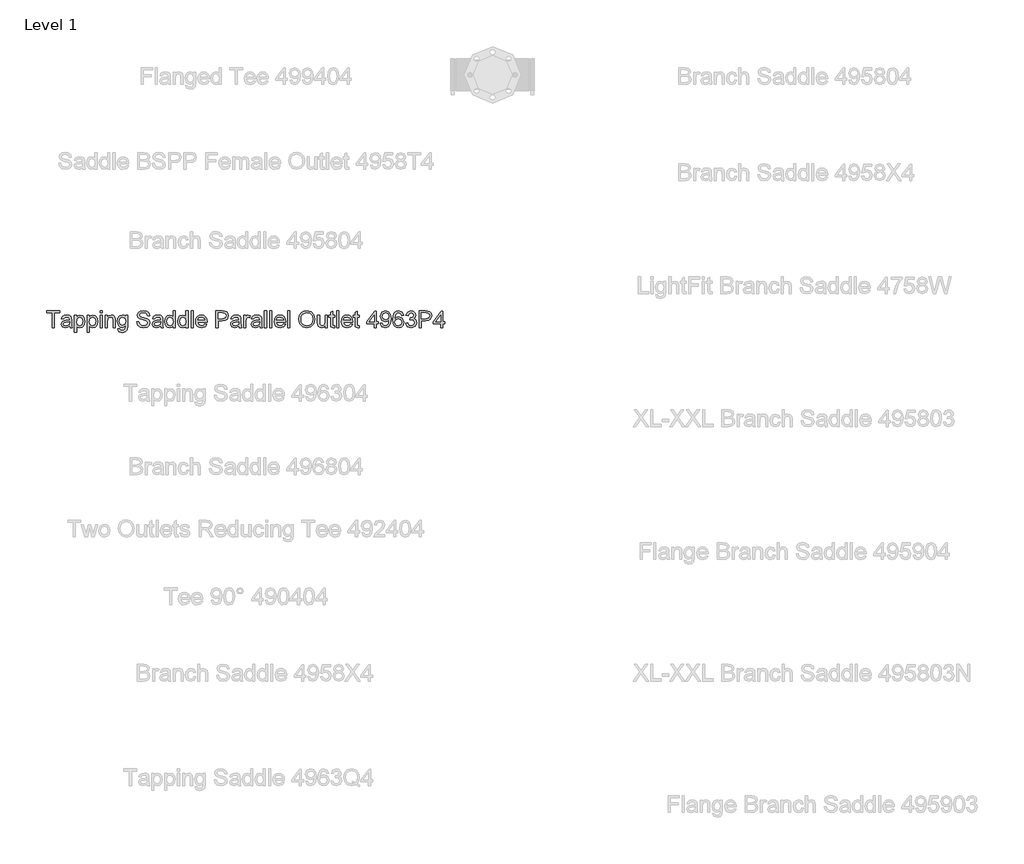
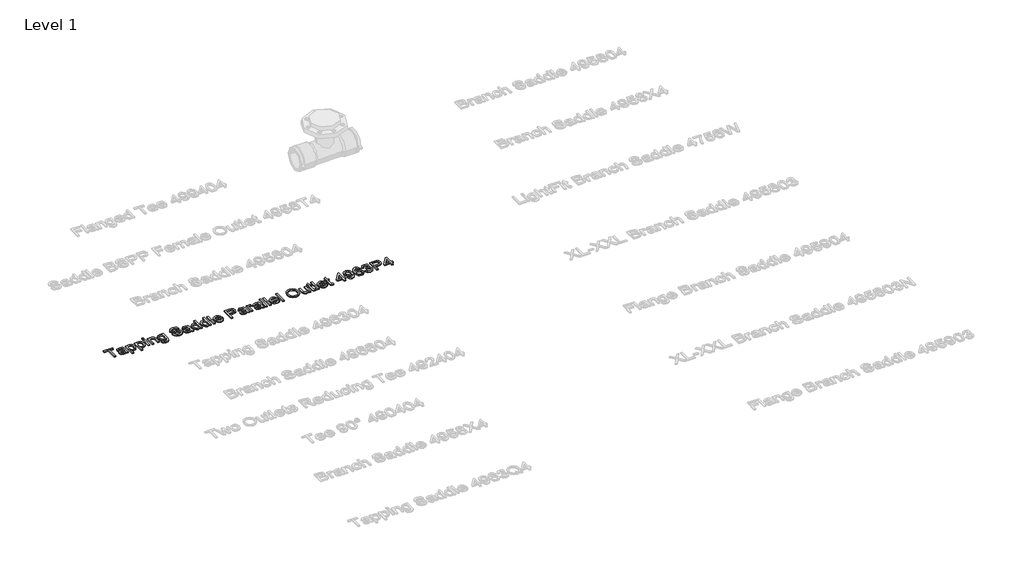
# One storey, part 10 of 41: 1 proxy.
"""IFC4 building model written with IfcOpenShell, lengths in millimetres."""

from ifc_helpers import new_model, si_unit, origin, origin_with_axes, place, context, project, spatial, polyline, outline, extrude, element, save

model = new_model("IFC4")

# Units and contexts
model_context = context("Model", 3, world=origin())
ifc_project = project(units=[si_unit("LENGTHUNIT", "METRE", prefix="MILLI")], contexts=[model_context])

# Site, building, storey
site = spatial("IfcSite", under=ifc_project)
building = spatial("IfcBuilding", under=site)
storey = spatial("IfcBuildingStorey", under=building, Name="Level 1", Elevation=0.0)

# Proxy
placement = place(None, origin())
element("IfcBuildingElementProxy", 1, Name="100 mm Arial", ObjectType="100 mm Arial", at=placement, inside=storey, context=model_context, shape_type="SweptSolid", body=[
    extrude(outline(polyline([(6373.9808456, 4077.5779735), (6373.9808456, 4129.2702812), (6354.5962303, 4129.2702812), (6354.5962303, 4136.6548966), (6400.7500764, 4136.6548966), (6400.7500764, 4129.2702812), (6381.365461, 4129.2702812), (6381.365461, 4077.5779735), (6373.9808456, 4077.5779735)])), origin_with_axes(), (0.0, 0.0, 1.0), 5.0),
    extrude(outline(polyline([(6435.8269995, 4083.1164351), (6428.6659418, 4078.1116274), (6420.7548841, 4076.6548966), (6410.0313264, 4080.1597043), (6406.288538, 4089.1164351), (6407.7019995, 4094.9577812), (6411.4159418, 4099.1981658), (6416.5866149, 4101.6212428), (6422.976038, 4102.7318197), (6435.7837303, 4105.2702812), (6435.8269995, 4106.914512), (6433.7933456, 4112.3664351), (6425.6298841, 4114.5010505), (6418.1587303, 4113.0803774), (6414.5962303, 4108.039512), (6407.2116149, 4108.9625889), (6410.4063264, 4116.1741274), (6416.8390187, 4120.4000889), (6426.5818072, 4121.8856658), (6435.5313264, 4120.5731658), (6440.5866149, 4117.2774928), (6442.851038, 4112.2654735), (6443.2116149, 4105.8039351), (6443.2116149, 4096.6164351), (6443.5866149, 4083.7871082), (6445.0577687, 4077.5779735), (6437.6731533, 4077.5779735), (6435.8269995, 4083.1164351)]), holes=[polyline([(6435.8269995, 4097.8856658), (6423.913538, 4095.6212428), (6417.5601726, 4094.4241274), (6414.6827687, 4092.477012), (6413.6731533, 4089.6356658), (6415.8726726, 4085.6404735), (6422.3269995, 4084.039512), (6429.7981533, 4085.8063389), (6434.615461, 4090.0827812), (6435.7837303, 4095.7943197), (6435.8269995, 4097.8856658)])]), origin_with_axes(), (0.0, 0.0, 1.0), 5.0),
    extrude(outline(polyline([(6453.365461, 4060.9625889), (6453.365461, 4120.9625889), (6460.7500764, 4120.9625889), (6460.7500764, 4113.7222043), (6465.8558456, 4119.8448005), (6472.7500764, 4121.8856658), (6482.1106533, 4119.0298966), (6488.226038, 4110.9818197), (6490.288538, 4099.602012), (6487.959211, 4087.6380697), (6481.194788, 4079.4890312), (6471.8558456, 4076.6548966), (6465.4303649, 4078.5515312), (6460.7500764, 4083.3472043), (6460.7500764, 4060.9625889), (6453.365461, 4060.9625889)]), holes=[polyline([(6460.7500764, 4098.9241274), (6463.944788, 4087.6741274), (6471.6971918, 4084.039512), (6479.6082495, 4087.8039351), (6482.9039226, 4099.4722043), (6479.6875764, 4110.7510505), (6472.0000764, 4114.5010505), (6464.1611341, 4110.5130697), (6460.7500764, 4098.9241274)])]), origin_with_axes(), (0.0, 0.0, 1.0), 5.0),
    extrude(outline(polyline([(6498.5962303, 4060.9625889), (6498.5962303, 4120.9625889), (6505.9808456, 4120.9625889), (6505.9808456, 4113.7222043), (6511.0866149, 4119.8448005), (6517.9808456, 4121.8856658), (6527.3414226, 4119.0298966), (6533.4568072, 4110.9818197), (6535.5193072, 4099.602012), (6533.1899803, 4087.6380697), (6526.4255572, 4079.4890312), (6517.0866149, 4076.6548966), (6510.6611341, 4078.5515312), (6505.9808456, 4083.3472043), (6505.9808456, 4060.9625889), (6498.5962303, 4060.9625889)]), holes=[polyline([(6505.9808456, 4098.9241274), (6509.1755572, 4087.6741274), (6516.927961, 4084.039512), (6524.8390187, 4087.8039351), (6528.1346918, 4099.4722043), (6524.9183456, 4110.7510505), (6517.2308456, 4114.5010505), (6509.3919033, 4110.5130697), (6505.9808456, 4098.9241274)])]), origin_with_axes(), (0.0, 0.0, 1.0), 5.0),
    extrude(outline(polyline([(6543.8269995, 4129.2702812), (6543.8269995, 4136.6548966), (6551.2116149, 4136.6548966), (6551.2116149, 4129.2702812), (6543.8269995, 4129.2702812)])), origin_with_axes(), (0.0, 0.0, 1.0), 5.0),
    extrude(outline(polyline([(6543.8269995, 4077.5779735), (6543.8269995, 4120.9625889), (6551.2116149, 4120.9625889), (6551.2116149, 4077.5779735), (6543.8269995, 4077.5779735)])), origin_with_axes(), (0.0, 0.0, 1.0), 5.0),
    extrude(outline(polyline([(6562.288538, 4077.5779735), (6562.288538, 4120.9625889), (6569.6731533, 4120.9625889), (6569.6731533, 4114.9048966), (6575.319788, 4120.1404735), (6583.0289226, 4121.8856658), (6590.0024803, 4120.4794158), (6594.7620956, 4116.7871082), (6596.976038, 4111.3568197), (6597.365461, 4104.2173966), (6597.365461, 4077.5779735), (6589.9808456, 4077.5779735), (6589.9808456, 4103.2222043), (6589.1298841, 4109.7558582), (6586.1226726, 4113.2101851), (6581.052961, 4114.5010505), (6573.0409418, 4111.602012), (6569.6731533, 4100.5972043), (6569.6731533, 4077.5779735), (6562.288538, 4077.5779735)])), origin_with_axes(), (0.0, 0.0, 1.0), 5.0),
    extrude(outline(polyline([(6605.6731533, 4073.8856658), (6613.0577687, 4072.9625889), (6615.4519995, 4069.0683582), (6622.6202687, 4067.4241274), (6630.177961, 4069.2847043), (6633.7837303, 4074.5058582), (6634.288538, 4083.1164351), (6622.7500764, 4077.5779735), (6615.1364947, 4079.1897524), (6609.459211, 4084.0250889), (6604.7500764, 4099.4866274), (6606.8630572, 4110.9313389), (6612.9784418, 4119.0298966), (6622.3894995, 4121.8856658), (6628.9772399, 4120.2702812), (6634.288538, 4115.4241274), (6634.288538, 4120.9625889), (6641.6731533, 4120.9625889), (6641.6731533, 4083.5058582), (6639.6539226, 4069.1621082), (6633.257288, 4062.4914351), (6622.476038, 4060.039512), (6610.194788, 4063.4938389), (6605.6731533, 4073.8856658)]), holes=[polyline([(6612.1346918, 4099.9914351), (6615.2861341, 4088.5611466), (6623.1971918, 4084.9625889), (6631.0938264, 4088.539512), (6634.288538, 4099.7750889), (6631.0000764, 4110.7871082), (6623.0818072, 4114.5010505), (6615.3294033, 4110.8448005), (6612.1346918, 4099.9914351)])]), origin_with_axes(), (0.0, 0.0, 1.0), 5.0),
    extrude(outline(polyline([(6673.9808456, 4097.8856658), (6681.365461, 4097.8856658), (6683.7452687, 4090.4938389), (6689.5577687, 4085.820762), (6698.413538, 4084.039512), (6706.1298841, 4085.3880697), (6711.1130572, 4089.0948005), (6712.7500764, 4094.0491274), (6711.5241149, 4098.6573005), (6706.5048841, 4102.0106658), (6695.7524803, 4104.8303774), (6684.177961, 4108.4722043), (6677.896711, 4113.9673966), (6675.8269995, 4121.3087428), (6678.3870956, 4129.6669158), (6685.865461, 4135.5659543), (6696.8125764, 4137.5779735), (6708.4952687, 4135.4722043), (6716.2837303, 4129.2847043), (6719.2116149, 4120.039512), (6711.8269995, 4120.039512), (6707.6443072, 4127.6260505), (6697.101038, 4130.1933582), (6686.5289226, 4127.6548966), (6683.2116149, 4121.5250889), (6685.5625764, 4116.4048966), (6697.6202687, 4112.2798966), (6710.6875764, 4108.5731658), (6717.834211, 4102.5875889), (6720.1346918, 4094.2366274), (6717.4880572, 4085.4024928), (6709.8726726, 4078.9553774), (6698.7019995, 4076.6548966), (6685.5120956, 4079.1356658), (6677.1683456, 4086.6068197), (6673.9808456, 4097.8856658)])), origin_with_axes(), (0.0, 0.0, 1.0), 5.0),
    extrude(outline(polyline([(6757.9808456, 4083.1164351), (6750.819788, 4078.1116274), (6742.9087303, 4076.6548966), (6732.1851726, 4080.1597043), (6728.4423841, 4089.1164351), (6729.8558456, 4094.9577812), (6733.569788, 4099.1981658), (6738.740461, 4101.6212428), (6745.1298841, 4102.7318197), (6757.9375764, 4105.2702812), (6757.9808456, 4106.914512), (6755.9471918, 4112.3664351), (6747.7837303, 4114.5010505), (6740.3125764, 4113.0803774), (6736.7500764, 4108.039512), (6729.365461, 4108.9625889), (6732.5601726, 4116.1741274), (6738.9928649, 4120.4000889), (6748.7356533, 4121.8856658), (6757.6851726, 4120.5731658), (6762.740461, 4117.2774928), (6765.0048841, 4112.2654735), (6765.365461, 4105.8039351), (6765.365461, 4096.6164351), (6765.740461, 4083.7871082), (6767.2116149, 4077.5779735), (6759.8269995, 4077.5779735), (6757.9808456, 4083.1164351)]), holes=[polyline([(6757.9808456, 4097.8856658), (6746.0673841, 4095.6212428), (6739.7140187, 4094.4241274), (6736.8366149, 4092.477012), (6735.8269995, 4089.6356658), (6738.0265187, 4085.6404735), (6744.4808456, 4084.039512), (6751.9519995, 4085.8063389), (6756.7693072, 4090.0827812), (6757.9375764, 4095.7943197), (6757.9808456, 4097.8856658)])]), origin_with_axes(), (0.0, 0.0, 1.0), 5.0),
    extrude(outline(polyline([(6802.288538, 4077.5779735), (6802.288538, 4084.5443197), (6797.4027206, 4078.6272524), (6790.6491149, 4076.6548966), (6781.5048841, 4079.5106658), (6775.0433456, 4087.4794158), (6772.7500764, 4099.227012), (6774.8630572, 4110.9818197), (6781.194788, 4119.0731658), (6790.6202687, 4121.8856658), (6797.427961, 4119.8736466), (6802.288538, 4114.6452812), (6802.288538, 4136.6548966), (6809.6731533, 4136.6548966), (6809.6731533, 4077.5779735), (6802.288538, 4077.5779735)]), holes=[polyline([(6780.1346918, 4099.2558582), (6783.4664226, 4087.8255697), (6791.3269995, 4084.039512), (6799.0938264, 4087.6524928), (6802.288538, 4098.6933582), (6799.0361341, 4110.6789351), (6791.0241149, 4114.5010505), (6783.2500764, 4110.8303774), (6780.1346918, 4099.2558582)])]), origin_with_axes(), (0.0, 0.0, 1.0), 5.0),
    extrude(outline(polyline([(6847.5193072, 4077.5779735), (6847.5193072, 4084.5443197), (6842.6334899, 4078.6272524), (6835.8798841, 4076.6548966), (6826.7356533, 4079.5106658), (6820.2741149, 4087.4794158), (6817.9808456, 4099.227012), (6820.0938264, 4110.9818197), (6826.4255572, 4119.0731658), (6835.851038, 4121.8856658), (6842.6587303, 4119.8736466), (6847.5193072, 4114.6452812), (6847.5193072, 4136.6548966), (6854.9039226, 4136.6548966), (6854.9039226, 4077.5779735), (6847.5193072, 4077.5779735)]), holes=[polyline([(6825.365461, 4099.2558582), (6828.6971918, 4087.8255697), (6836.5577687, 4084.039512), (6844.3245956, 4087.6524928), (6847.5193072, 4098.6933582), (6844.2669033, 4110.6789351), (6836.2548841, 4114.5010505), (6828.4808456, 4110.8303774), (6825.365461, 4099.2558582)])]), origin_with_axes(), (0.0, 0.0, 1.0), 5.0),
    extrude(outline(polyline([(6865.9808456, 4077.5779735), (6865.9808456, 4136.6548966), (6873.365461, 4136.6548966), (6873.365461, 4077.5779735), (6865.9808456, 4077.5779735)])), origin_with_axes(), (0.0, 0.0, 1.0), 5.0),
    extrude(outline(polyline([(6914.8173841, 4090.5010505), (6922.0577687, 4089.5779735), (6915.2861341, 4080.0443197), (6902.6731533, 4076.6548966), (6894.0084899, 4078.117036), (6887.3414226, 4082.5034543), (6883.0902206, 4089.5292957), (6881.6731533, 4098.9097043), (6883.1046437, 4108.6056178), (6887.3991149, 4115.8568197), (6893.976038, 4120.3784543), (6902.2548841, 4121.8856658), (6910.2759178, 4120.3820601), (6916.6851726, 4115.8712428), (6920.8876966, 4108.6344639), (6922.288538, 4098.9529735), (6922.2452687, 4096.9625889), (6889.0577687, 4096.9625889), (6893.3053649, 4087.3712428), (6902.8173841, 4084.039512), (6910.0577687, 4085.5827812), (6914.8173841, 4090.5010505)]), holes=[polyline([(6889.0577687, 4104.3472043), (6914.9039226, 4104.3472043), (6911.9471918, 4111.039512), (6902.226038, 4114.5010505), (6893.132288, 4111.7390312), (6889.0577687, 4104.3472043)])]), origin_with_axes(), (0.0, 0.0, 1.0), 5.0),
    extrude(outline(polyline([(6953.6731533, 4077.5779735), (6953.6731533, 4136.6548966), (6975.5673841, 4136.6548966), (6984.3943072, 4136.0923966), (6991.569788, 4133.3303774), (6996.2212303, 4127.6188389), (6997.9808456, 4119.5635505), (6993.2284418, 4106.7991274), (6986.5631774, 4102.883262), (6976.0721918, 4101.5779735), (6961.0577687, 4101.5779735), (6961.0577687, 4077.5779735), (6953.6731533, 4077.5779735)]), holes=[polyline([(6961.0577687, 4108.9625889), (6976.5048841, 4108.9625889), (6987.3798841, 4111.6741274), (6990.5962303, 4119.3039351), (6988.6995956, 4125.4193197), (6983.7164226, 4128.7654735), (6976.3318072, 4129.2702812), (6961.0577687, 4129.2702812), (6961.0577687, 4108.9625889)])]), origin_with_axes(), (0.0, 0.0, 1.0), 5.0),
    extrude(outline(polyline([(7034.9039226, 4083.1164351), (7027.7428649, 4078.1116274), (7019.8318072, 4076.6548966), (7009.1082495, 4080.1597043), (7005.365461, 4089.1164351), (7006.7789226, 4094.9577812), (7010.4928649, 4099.1981658), (7015.663538, 4101.6212428), (7022.052961, 4102.7318197), (7034.8606533, 4105.2702812), (7034.9039226, 4106.914512), (7032.8702687, 4112.3664351), (7024.7068072, 4114.5010505), (7017.2356533, 4113.0803774), (7013.6731533, 4108.039512), (7006.288538, 4108.9625889), (7009.4832495, 4116.1741274), (7015.9159418, 4120.4000889), (7025.6587303, 4121.8856658), (7034.6082495, 4120.5731658), (7039.663538, 4117.2774928), (7041.927961, 4112.2654735), (7042.288538, 4105.8039351), (7042.288538, 4096.6164351), (7042.663538, 4083.7871082), (7044.1346918, 4077.5779735), (7036.7500764, 4077.5779735), (7034.9039226, 4083.1164351)]), holes=[polyline([(7034.9039226, 4097.8856658), (7022.990461, 4095.6212428), (7016.6370956, 4094.4241274), (7013.7596918, 4092.477012), (7012.7500764, 4089.6356658), (7014.9495956, 4085.6404735), (7021.4039226, 4084.039512), (7028.8750764, 4085.8063389), (7033.6923841, 4090.0827812), (7034.8606533, 4095.7943197), (7034.9039226, 4097.8856658)])]), origin_with_axes(), (0.0, 0.0, 1.0), 5.0),
    extrude(outline(polyline([(7052.4423841, 4077.5779735), (7052.4423841, 4120.9625889), (7058.9039226, 4120.9625889), (7058.9039226, 4114.5443197), (7063.490461, 4120.4577812), (7068.1058456, 4121.8856658), (7075.5193072, 4119.6068197), (7073.052961, 4112.9866274), (7067.8606533, 4114.5010505), (7063.6851726, 4113.0443197), (7061.0241149, 4109.0058582), (7059.8269995, 4100.3808582), (7059.8269995, 4077.5779735), (7052.4423841, 4077.5779735)])), origin_with_axes(), (0.0, 0.0, 1.0), 5.0),
    extrude(outline(polyline([(7107.8269995, 4083.1164351), (7100.6659418, 4078.1116274), (7092.7548841, 4076.6548966), (7082.0313264, 4080.1597043), (7078.288538, 4089.1164351), (7079.7019995, 4094.9577812), (7083.4159418, 4099.1981658), (7088.5866149, 4101.6212428), (7094.976038, 4102.7318197), (7107.7837303, 4105.2702812), (7107.8269995, 4106.914512), (7105.7933456, 4112.3664351), (7097.6298841, 4114.5010505), (7090.1587303, 4113.0803774), (7086.5962303, 4108.039512), (7079.2116149, 4108.9625889), (7082.4063264, 4116.1741274), (7088.8390187, 4120.4000889), (7098.5818072, 4121.8856658), (7107.5313264, 4120.5731658), (7112.5866149, 4117.2774928), (7114.851038, 4112.2654735), (7115.2116149, 4105.8039351), (7115.2116149, 4096.6164351), (7115.5866149, 4083.7871082), (7117.0577687, 4077.5779735), (7109.6731533, 4077.5779735), (7107.8269995, 4083.1164351)]), holes=[polyline([(7107.8269995, 4097.8856658), (7095.913538, 4095.6212428), (7089.5601726, 4094.4241274), (7086.6827687, 4092.477012), (7085.6731533, 4089.6356658), (7087.8726726, 4085.6404735), (7094.3269995, 4084.039512), (7101.7981533, 4085.8063389), (7106.615461, 4090.0827812), (7107.7837303, 4095.7943197), (7107.8269995, 4097.8856658)])]), origin_with_axes(), (0.0, 0.0, 1.0), 5.0),
    extrude(outline(polyline([(7125.365461, 4077.5779735), (7125.365461, 4136.6548966), (7132.7500764, 4136.6548966), (7132.7500764, 4077.5779735), (7125.365461, 4077.5779735)])), origin_with_axes(), (0.0, 0.0, 1.0), 5.0),
    extrude(outline(polyline([(7143.8269995, 4077.5779735), (7143.8269995, 4136.6548966), (7151.2116149, 4136.6548966), (7151.2116149, 4077.5779735), (7143.8269995, 4077.5779735)])), origin_with_axes(), (0.0, 0.0, 1.0), 5.0),
    extrude(outline(polyline([(7192.663538, 4090.5010505), (7199.9039226, 4089.5779735), (7193.132288, 4080.0443197), (7180.5193072, 4076.6548966), (7171.8546437, 4078.117036), (7165.1875764, 4082.5034543), (7160.9363745, 4089.5292957), (7159.5193072, 4098.9097043), (7160.9507976, 4108.6056178), (7165.2452687, 4115.8568197), (7171.8221918, 4120.3784543), (7180.101038, 4121.8856658), (7188.1220716, 4120.3820601), (7194.5313264, 4115.8712428), (7198.7338505, 4108.6344639), (7200.1346918, 4098.9529735), (7200.0914226, 4096.9625889), (7166.9039226, 4096.9625889), (7171.1515187, 4087.3712428), (7180.663538, 4084.039512), (7187.9039226, 4085.5827812), (7192.663538, 4090.5010505)]), holes=[polyline([(7166.9039226, 4104.3472043), (7192.7500764, 4104.3472043), (7189.7933456, 4111.039512), (7180.0721918, 4114.5010505), (7170.9784418, 4111.7390312), (7166.9039226, 4104.3472043)])]), origin_with_axes(), (0.0, 0.0, 1.0), 5.0),
    extrude(outline(polyline([(7207.5193072, 4077.5779735), (7207.5193072, 4136.6548966), (7214.9039226, 4136.6548966), (7214.9039226, 4077.5779735), (7207.5193072, 4077.5779735)])), origin_with_axes(), (0.0, 0.0, 1.0), 5.0),
    extrude(outline(polyline([(7247.2116149, 4106.3375889), (7249.1803649, 4119.4012908), (7255.0866149, 4129.2847043), (7264.1046437, 4135.5046562), (7275.4087303, 4137.5779735), (7290.1058456, 4133.6837428), (7300.0866149, 4122.8231658), (7303.5193072, 4107.0154735), (7299.9063264, 4090.9914351), (7289.6659418, 4080.289512), (7275.365461, 4076.6548966), (7260.5096918, 4080.6717235), (7250.5866149, 4091.633262), (7247.2116149, 4106.3375889)]), holes=[polyline([(7254.5962303, 4106.2654735), (7256.0727928, 4097.023887), (7260.5024803, 4089.9818197), (7267.1605331, 4085.5250889), (7275.3221918, 4084.039512), (7283.6028408, 4085.539512), (7290.271711, 4090.039512), (7294.6689466, 4097.2979255), (7296.1346918, 4107.0731658), (7293.6250764, 4119.2606658), (7286.2909418, 4127.3303774), (7275.4519995, 4130.1933582), (7260.7548841, 4124.6765312), (7256.1358937, 4117.3153533), (7254.5962303, 4106.2654735)])]), origin_with_axes(), (0.0, 0.0, 1.0), 5.0),
    extrude(outline(polyline([(7340.4423841, 4077.5779735), (7340.4423841, 4085.0347043), (7334.6587303, 4078.7498485), (7327.115461, 4076.6548966), (7320.1707495, 4078.1260505), (7315.382288, 4081.8183582), (7313.1827687, 4087.2558582), (7312.7500764, 4094.1212428), (7312.7500764, 4120.9625889), (7320.1346918, 4120.9625889), (7320.1346918, 4097.5972043), (7320.5818072, 4090.0683582), (7323.5024803, 4085.6476851), (7329.0048841, 4084.039512), (7335.1707495, 4085.6837428), (7339.2452687, 4090.1621082), (7340.4423841, 4098.3904735), (7340.4423841, 4120.9625889), (7347.8269995, 4120.9625889), (7347.8269995, 4077.5779735), (7340.4423841, 4077.5779735)])), origin_with_axes(), (0.0, 0.0, 1.0), 5.0),
    extrude(outline(polyline([(7373.6731533, 4083.7366274), (7374.5962303, 4077.3616274), (7369.0721918, 4076.6548966), (7362.8846918, 4077.8808582), (7359.7981533, 4081.0972043), (7358.9039226, 4089.477012), (7358.9039226, 4113.5779735), (7353.365461, 4113.5779735), (7353.365461, 4120.9625889), (7358.9039226, 4120.9625889), (7358.9039226, 4131.5058582), (7366.288538, 4135.8472043), (7366.288538, 4120.9625889), (7373.6731533, 4120.9625889), (7373.6731533, 4113.5779735), (7366.288538, 4113.5779735), (7366.288538, 4089.6933582), (7366.677961, 4085.8856658), (7367.9399803, 4084.5371082), (7370.4568072, 4084.039512), (7373.6731533, 4083.7366274)])), origin_with_axes(), (0.0, 0.0, 1.0), 5.0),
    extrude(outline(polyline([(7381.0577687, 4077.5779735), (7381.0577687, 4136.6548966), (7388.4423841, 4136.6548966), (7388.4423841, 4077.5779735), (7381.0577687, 4077.5779735)])), origin_with_axes(), (0.0, 0.0, 1.0), 5.0),
    extrude(outline(polyline([(7429.8943072, 4090.5010505), (7437.1346918, 4089.5779735), (7430.3630572, 4080.0443197), (7417.7500764, 4076.6548966), (7409.085413, 4078.117036), (7402.4183456, 4082.5034543), (7398.1671437, 4089.5292957), (7396.7500764, 4098.9097043), (7398.1815668, 4108.6056178), (7402.476038, 4115.8568197), (7409.052961, 4120.3784543), (7417.3318072, 4121.8856658), (7425.3528408, 4120.3820601), (7431.7620956, 4115.8712428), (7435.9646197, 4108.6344639), (7437.365461, 4098.9529735), (7437.3221918, 4096.9625889), (7404.1346918, 4096.9625889), (7408.382288, 4087.3712428), (7417.8943072, 4084.039512), (7425.1346918, 4085.5827812), (7429.8943072, 4090.5010505)]), holes=[polyline([(7404.1346918, 4104.3472043), (7429.9808456, 4104.3472043), (7427.0241149, 4111.039512), (7417.302961, 4114.5010505), (7408.209211, 4111.7390312), (7404.1346918, 4104.3472043)])]), origin_with_axes(), (0.0, 0.0, 1.0), 5.0),
    extrude(outline(polyline([(7460.4423841, 4083.7366274), (7461.365461, 4077.3616274), (7455.8414226, 4076.6548966), (7449.6539226, 4077.8808582), (7446.5673841, 4081.0972043), (7445.6731533, 4089.477012), (7445.6731533, 4113.5779735), (7440.1346918, 4113.5779735), (7440.1346918, 4120.9625889), (7445.6731533, 4120.9625889), (7445.6731533, 4131.5058582), (7453.0577687, 4135.8472043), (7453.0577687, 4120.9625889), (7460.4423841, 4120.9625889), (7460.4423841, 4113.5779735), (7453.0577687, 4113.5779735), (7453.0577687, 4089.6933582), (7453.4471918, 4085.8856658), (7454.709211, 4084.5371082), (7457.226038, 4084.039512), (7460.4423841, 4083.7366274)])), origin_with_axes(), (0.0, 0.0, 1.0), 5.0),
    extrude(outline(polyline([(7513.0577687, 4077.5779735), (7513.0577687, 4091.4241274), (7486.288538, 4091.4241274), (7486.288538, 4098.8087428), (7514.9039226, 4135.7318197), (7520.4423841, 4135.7318197), (7520.4423841, 4098.8087428), (7527.8269995, 4098.8087428), (7527.8269995, 4091.4241274), (7520.4423841, 4091.4241274), (7520.4423841, 4077.5779735), (7513.0577687, 4077.5779735)]), holes=[polyline([(7513.0577687, 4098.8087428), (7513.0577687, 4121.6260505), (7495.3750764, 4098.8087428), (7513.0577687, 4098.8087428)])]), origin_with_axes(), (0.0, 0.0, 1.0), 5.0),
    extrude(outline(polyline([(7535.2116149, 4092.3472043), (7542.5962303, 4093.2702812), (7545.913538, 4086.2246082), (7552.2019995, 4084.039512), (7558.1803649, 4085.445762), (7562.2332495, 4089.2029735), (7564.6491149, 4095.6212428), (7565.7164226, 4104.1885505), (7559.7669033, 4100.0347043), (7551.6683456, 4097.8856658), (7539.3294033, 4103.1356658), (7534.288538, 4116.9673966), (7539.5745956, 4131.2462428), (7552.8221918, 4136.6548966), (7563.3438264, 4133.5683582), (7570.584211, 4124.7702812), (7573.0577687, 4108.2414351), (7570.5914226, 4090.3063389), (7563.257288, 4080.1452812), (7551.8558456, 4076.6548966), (7540.5048841, 4080.7726851), (7535.2116149, 4092.3472043)]), holes=[polyline([(7565.6731533, 4117.1404735), (7562.4856533, 4125.9962428), (7554.0193072, 4129.2702812), (7545.1346918, 4125.7438389), (7541.6731533, 4116.6068197), (7544.9471918, 4108.4217235), (7553.8173841, 4105.2702812), (7562.334211, 4108.4217235), (7565.6731533, 4117.1404735)])]), origin_with_axes(), (0.0, 0.0, 1.0), 5.0),
    extrude(outline(polyline([(7617.365461, 4120.9625889), (7609.9808456, 4120.039512), (7607.1827687, 4126.1981658), (7599.7837303, 4129.2702812), (7593.1202687, 4127.4818197), (7588.0794033, 4120.7678774), (7585.9808456, 4107.6068197), (7592.4928649, 4113.4986466), (7600.5625764, 4115.4241274), (7613.1106533, 4110.1597043), (7618.288538, 4096.5587428), (7615.851038, 4086.3688389), (7609.1443072, 4079.1573005), (7599.4664226, 4076.6548966), (7591.0884178, 4078.3135505), (7584.4159418, 4083.289512), (7580.0511581, 4092.0731658), (7578.5962303, 4105.1548966), (7580.2116149, 4119.8628293), (7585.0577687, 4129.9193197), (7591.6743553, 4134.9710024), (7600.2452687, 4136.6548966), (7611.913538, 4132.4866274), (7617.365461, 4120.9625889)]), holes=[polyline([(7585.9808456, 4096.6741274), (7587.6899803, 4090.2774928), (7592.2332495, 4085.633262), (7598.8894995, 4084.039512), (7607.5938264, 4087.3423966), (7610.9039226, 4096.3135505), (7607.6370956, 4104.9024928), (7598.5866149, 4108.039512), (7589.6515187, 4104.9024928), (7585.9808456, 4096.6741274)])]), origin_with_axes(), (0.0, 0.0, 1.0), 5.0),
    extrude(outline(polyline([(7624.7500764, 4093.2702812), (7632.1346918, 4094.1933582), (7636.209211, 4086.4193197), (7643.8318072, 4084.039512), (7652.802961, 4087.3135505), (7656.1346918, 4095.4193197), (7652.8318072, 4103.0563389), (7644.4375764, 4106.0779735), (7639.2596918, 4105.2702812), (7640.0818072, 4112.6548966), (7649.6443072, 4114.6885505), (7653.365461, 4121.2077812), (7650.6683456, 4126.9842235), (7643.7164226, 4129.2702812), (7636.677961, 4126.9625889), (7633.0577687, 4120.039512), (7625.6731533, 4120.9625889), (7631.7164226, 4132.5443197), (7643.4568072, 4136.6548966), (7652.3630572, 4134.6284543), (7658.5938264, 4129.0899928), (7660.7500764, 4121.6404735), (7658.7019995, 4114.8327812), (7652.6443072, 4109.9433582), (7660.6923841, 4104.8952812), (7663.5193072, 4095.289512), (7657.865461, 4082.0779735), (7643.5721918, 4076.6548966), (7630.6202687, 4081.2847043), (7624.7500764, 4093.2702812)])), origin_with_axes(), (0.0, 0.0, 1.0), 5.0),
    extrude(outline(polyline([(7672.7500764, 4077.5779735), (7672.7500764, 4136.6548966), (7694.6443072, 4136.6548966), (7703.4712303, 4136.0923966), (7710.646711, 4133.3303774), (7715.2981533, 4127.6188389), (7717.0577687, 4119.5635505), (7712.3053649, 4106.7991274), (7705.6401005, 4102.883262), (7695.1491149, 4101.5779735), (7680.1346918, 4101.5779735), (7680.1346918, 4077.5779735), (7672.7500764, 4077.5779735)]), holes=[polyline([(7680.1346918, 4108.9625889), (7695.5818072, 4108.9625889), (7706.4568072, 4111.6741274), (7709.6731533, 4119.3039351), (7707.7765187, 4125.4193197), (7702.7933456, 4128.7654735), (7695.4087303, 4129.2702812), (7680.1346918, 4129.2702812), (7680.1346918, 4108.9625889)])]), origin_with_axes(), (0.0, 0.0, 1.0), 5.0),
    extrude(outline(polyline([(7748.4423841, 4077.5779735), (7748.4423841, 4091.4241274), (7721.6731533, 4091.4241274), (7721.6731533, 4098.8087428), (7750.288538, 4135.7318197), (7755.8269995, 4135.7318197), (7755.8269995, 4098.8087428), (7763.2116149, 4098.8087428), (7763.2116149, 4091.4241274), (7755.8269995, 4091.4241274), (7755.8269995, 4077.5779735), (7748.4423841, 4077.5779735)]), holes=[polyline([(7748.4423841, 4098.8087428), (7748.4423841, 4121.6260505), (7730.7596918, 4098.8087428), (7748.4423841, 4098.8087428)])]), origin_with_axes(), (0.0, 0.0, 1.0), 5.0),
])

save(model, "model.ifc")
